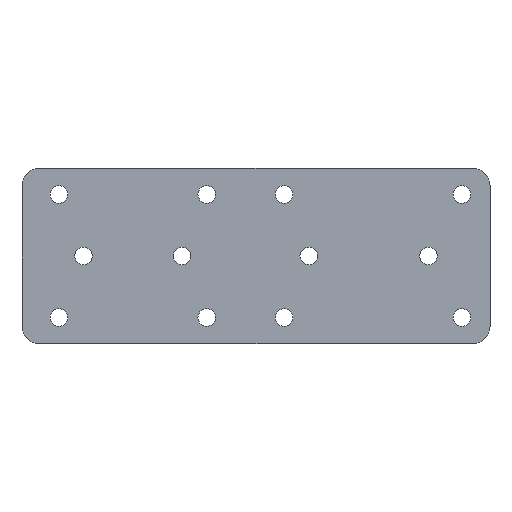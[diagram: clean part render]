
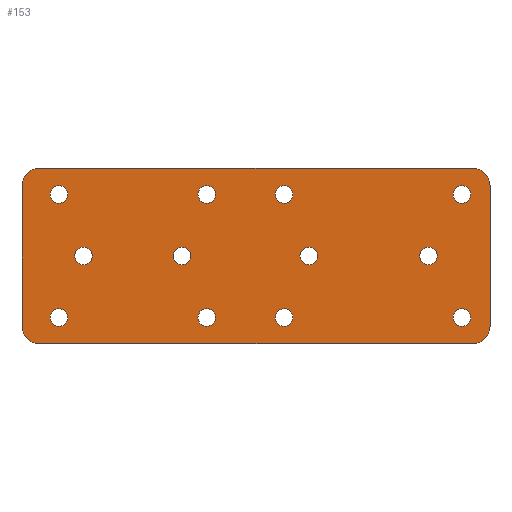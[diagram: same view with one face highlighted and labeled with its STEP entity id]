
A CAD part, top view. The second image highlights one B-rep face of the part: STEP entity #153.
In plain terms, the highlighted planar face has unit normal (0, 0, 1).
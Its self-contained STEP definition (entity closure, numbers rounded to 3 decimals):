
#59=FACE_BOUND('',#201,.T.);
#60=FACE_BOUND('',#202,.T.);
#61=FACE_BOUND('',#203,.T.);
#62=FACE_BOUND('',#204,.T.);
#63=FACE_BOUND('',#205,.T.);
#64=FACE_BOUND('',#206,.T.);
#65=FACE_BOUND('',#207,.T.);
#66=FACE_BOUND('',#208,.T.);
#67=FACE_BOUND('',#209,.T.);
#68=FACE_BOUND('',#210,.T.);
#69=FACE_BOUND('',#211,.T.);
#70=FACE_BOUND('',#212,.T.);
#71=FACE_BOUND('',#213,.T.);
#102=CIRCLE('',#462,5.);
#104=CIRCLE('',#466,5.);
#106=CIRCLE('',#470,5.);
#107=CIRCLE('',#473,2.5);
#109=CIRCLE('',#476,2.5);
#111=CIRCLE('',#479,2.5);
#113=CIRCLE('',#482,2.5);
#115=CIRCLE('',#485,2.5);
#117=CIRCLE('',#488,2.5);
#119=CIRCLE('',#491,2.5);
#121=CIRCLE('',#494,2.5);
#123=CIRCLE('',#497,2.5);
#125=CIRCLE('',#500,2.5);
#127=CIRCLE('',#503,2.5);
#130=CIRCLE('',#507,5.);
#131=CIRCLE('',#509,2.5);
#153=ADVANCED_FACE('',(#59,#60,#61,#62,#63,#64,#65,#66,#67,#68,#69,#70,
#71),#159,.T.);
#159=PLANE('',#512);
#201=EDGE_LOOP('',(#283,#284,#285,#286,#287,#288,#289,#290));
#202=EDGE_LOOP('',(#291));
#203=EDGE_LOOP('',(#292));
#204=EDGE_LOOP('',(#293));
#205=EDGE_LOOP('',(#294));
#206=EDGE_LOOP('',(#295));
#207=EDGE_LOOP('',(#296));
#208=EDGE_LOOP('',(#297));
#209=EDGE_LOOP('',(#298));
#210=EDGE_LOOP('',(#299));
#211=EDGE_LOOP('',(#300));
#212=EDGE_LOOP('',(#301));
#213=EDGE_LOOP('',(#302));
#283=ORIENTED_EDGE('',*,*,#365,.T.);
#284=ORIENTED_EDGE('',*,*,#369,.T.);
#285=ORIENTED_EDGE('',*,*,#372,.T.);
#286=ORIENTED_EDGE('',*,*,#375,.T.);
#287=ORIENTED_EDGE('',*,*,#378,.T.);
#288=ORIENTED_EDGE('',*,*,#381,.T.);
#289=ORIENTED_EDGE('',*,*,#384,.T.);
#290=ORIENTED_EDGE('',*,*,#408,.T.);
#291=ORIENTED_EDGE('',*,*,#405,.F.);
#292=ORIENTED_EDGE('',*,*,#403,.F.);
#293=ORIENTED_EDGE('',*,*,#401,.F.);
#294=ORIENTED_EDGE('',*,*,#399,.F.);
#295=ORIENTED_EDGE('',*,*,#397,.F.);
#296=ORIENTED_EDGE('',*,*,#395,.F.);
#297=ORIENTED_EDGE('',*,*,#393,.F.);
#298=ORIENTED_EDGE('',*,*,#391,.F.);
#299=ORIENTED_EDGE('',*,*,#389,.F.);
#300=ORIENTED_EDGE('',*,*,#387,.F.);
#301=ORIENTED_EDGE('',*,*,#385,.F.);
#302=ORIENTED_EDGE('',*,*,#409,.F.);
#325=VERTEX_POINT('',#649);
#326=VERTEX_POINT('',#651);
#328=VERTEX_POINT('',#657);
#330=VERTEX_POINT('',#663);
#332=VERTEX_POINT('',#669);
#334=VERTEX_POINT('',#675);
#336=VERTEX_POINT('',#681);
#338=VERTEX_POINT('',#687);
#339=VERTEX_POINT('',#691);
#341=VERTEX_POINT('',#696);
#343=VERTEX_POINT('',#701);
#345=VERTEX_POINT('',#706);
#347=VERTEX_POINT('',#711);
#349=VERTEX_POINT('',#716);
#351=VERTEX_POINT('',#721);
#353=VERTEX_POINT('',#726);
#355=VERTEX_POINT('',#731);
#357=VERTEX_POINT('',#736);
#359=VERTEX_POINT('',#741);
#361=VERTEX_POINT('',#749);
#365=EDGE_CURVE('',#326,#325,#413,.T.);
#369=EDGE_CURVE('',#325,#328,#102,.T.);
#372=EDGE_CURVE('',#328,#330,#418,.T.);
#375=EDGE_CURVE('',#330,#332,#104,.T.);
#378=EDGE_CURVE('',#332,#334,#422,.T.);
#381=EDGE_CURVE('',#334,#336,#106,.T.);
#384=EDGE_CURVE('',#336,#338,#426,.T.);
#385=EDGE_CURVE('',#339,#339,#107,.T.);
#387=EDGE_CURVE('',#341,#341,#109,.T.);
#389=EDGE_CURVE('',#343,#343,#111,.T.);
#391=EDGE_CURVE('',#345,#345,#113,.T.);
#393=EDGE_CURVE('',#347,#347,#115,.T.);
#395=EDGE_CURVE('',#349,#349,#117,.T.);
#397=EDGE_CURVE('',#351,#351,#119,.T.);
#399=EDGE_CURVE('',#353,#353,#121,.T.);
#401=EDGE_CURVE('',#355,#355,#123,.T.);
#403=EDGE_CURVE('',#357,#357,#125,.T.);
#405=EDGE_CURVE('',#359,#359,#127,.T.);
#408=EDGE_CURVE('',#338,#326,#130,.T.);
#409=EDGE_CURVE('',#361,#361,#131,.T.);
#413=LINE('',#650,#429);
#418=LINE('',#664,#434);
#422=LINE('',#676,#438);
#426=LINE('',#688,#442);
#429=VECTOR('',#520,1.);
#434=VECTOR('',#533,1.);
#438=VECTOR('',#545,1.);
#442=VECTOR('',#557,1.);
#462=AXIS2_PLACEMENT_3D('',#658,#527,#528);
#466=AXIS2_PLACEMENT_3D('',#670,#539,#540);
#470=AXIS2_PLACEMENT_3D('',#682,#551,#552);
#473=AXIS2_PLACEMENT_3D('',#690,#560,#561);
#476=AXIS2_PLACEMENT_3D('',#695,#566,#567);
#479=AXIS2_PLACEMENT_3D('',#700,#572,#573);
#482=AXIS2_PLACEMENT_3D('',#705,#578,#579);
#485=AXIS2_PLACEMENT_3D('',#710,#584,#585);
#488=AXIS2_PLACEMENT_3D('',#715,#590,#591);
#491=AXIS2_PLACEMENT_3D('',#720,#596,#597);
#494=AXIS2_PLACEMENT_3D('',#725,#602,#603);
#497=AXIS2_PLACEMENT_3D('',#730,#608,#609);
#500=AXIS2_PLACEMENT_3D('',#735,#614,#615);
#503=AXIS2_PLACEMENT_3D('',#740,#620,#621);
#507=AXIS2_PLACEMENT_3D('',#746,#628,#629);
#509=AXIS2_PLACEMENT_3D('',#748,#632,#633);
#512=AXIS2_PLACEMENT_3D('',#753,#638,#639);
#520=DIRECTION('',(0.,-1.,0.));
#527=DIRECTION('',(0.,0.,1.));
#528=DIRECTION('',(1.,0.,0.));
#533=DIRECTION('',(1.,0.,0.));
#539=DIRECTION('',(0.,0.,1.));
#540=DIRECTION('',(1.,0.,0.));
#545=DIRECTION('',(0.,1.,0.));
#551=DIRECTION('',(0.,0.,1.));
#552=DIRECTION('',(1.,0.,0.));
#557=DIRECTION('',(-1.,0.,0.));
#560=DIRECTION('',(0.,0.,1.));
#561=DIRECTION('',(1.,0.,0.));
#566=DIRECTION('',(0.,0.,1.));
#567=DIRECTION('',(1.,0.,0.));
#572=DIRECTION('',(0.,0.,1.));
#573=DIRECTION('',(1.,0.,0.));
#578=DIRECTION('',(0.,0.,1.));
#579=DIRECTION('',(1.,0.,0.));
#584=DIRECTION('',(0.,0.,1.));
#585=DIRECTION('',(1.,0.,0.));
#590=DIRECTION('',(0.,0.,1.));
#591=DIRECTION('',(1.,0.,0.));
#596=DIRECTION('',(0.,0.,1.));
#597=DIRECTION('',(1.,0.,0.));
#602=DIRECTION('',(0.,0.,1.));
#603=DIRECTION('',(1.,0.,0.));
#608=DIRECTION('',(0.,0.,1.));
#609=DIRECTION('',(1.,0.,0.));
#614=DIRECTION('',(0.,0.,1.));
#615=DIRECTION('',(1.,0.,0.));
#620=DIRECTION('',(0.,0.,1.));
#621=DIRECTION('',(1.,0.,0.));
#628=DIRECTION('',(0.,0.,1.));
#629=DIRECTION('',(1.,0.,0.));
#632=DIRECTION('',(0.,0.,1.));
#633=DIRECTION('',(1.,0.,0.));
#638=DIRECTION('',(0.,0.,1.));
#639=DIRECTION('',(1.,0.,0.));
#649=CARTESIAN_POINT('',(0.,5.,3.));
#650=CARTESIAN_POINT('',(0.,45.,3.));
#651=CARTESIAN_POINT('',(0.,45.,3.));
#657=CARTESIAN_POINT('',(5.,0.,3.));
#658=CARTESIAN_POINT('',(5.,5.,3.));
#663=CARTESIAN_POINT('',(128.,0.,3.));
#664=CARTESIAN_POINT('',(5.,0.,3.));
#669=CARTESIAN_POINT('',(133.,5.,3.));
#670=CARTESIAN_POINT('',(128.,5.,3.));
#675=CARTESIAN_POINT('',(133.,45.,3.));
#676=CARTESIAN_POINT('',(133.,5.,3.));
#681=CARTESIAN_POINT('',(128.,50.,3.));
#682=CARTESIAN_POINT('',(128.,45.,3.));
#687=CARTESIAN_POINT('',(5.,50.,3.));
#688=CARTESIAN_POINT('',(128.,50.,3.));
#690=CARTESIAN_POINT('',(125.,7.5,3.));
#691=CARTESIAN_POINT('',(127.5,7.5,3.));
#695=CARTESIAN_POINT('',(115.5,25.,3.));
#696=CARTESIAN_POINT('',(118.,25.,3.));
#700=CARTESIAN_POINT('',(81.5,25.,3.));
#701=CARTESIAN_POINT('',(84.,25.,3.));
#705=CARTESIAN_POINT('',(74.5,42.5,3.));
#706=CARTESIAN_POINT('',(77.,42.5,3.));
#710=CARTESIAN_POINT('',(74.5,7.5,3.));
#711=CARTESIAN_POINT('',(77.,7.5,3.));
#715=CARTESIAN_POINT('',(52.5,42.5,3.));
#716=CARTESIAN_POINT('',(55.,42.5,3.));
#720=CARTESIAN_POINT('',(52.5,7.5,3.));
#721=CARTESIAN_POINT('',(55.,7.5,3.));
#725=CARTESIAN_POINT('',(45.5,25.,3.));
#726=CARTESIAN_POINT('',(48.,25.,3.));
#730=CARTESIAN_POINT('',(17.5,25.,3.));
#731=CARTESIAN_POINT('',(20.,25.,3.));
#735=CARTESIAN_POINT('',(10.5,42.5,3.));
#736=CARTESIAN_POINT('',(13.,42.5,3.));
#740=CARTESIAN_POINT('',(10.5,7.5,3.));
#741=CARTESIAN_POINT('',(13.,7.5,3.));
#746=CARTESIAN_POINT('',(5.,45.,3.));
#748=CARTESIAN_POINT('',(125.,42.5,3.));
#749=CARTESIAN_POINT('',(127.5,42.5,3.));
#753=CARTESIAN_POINT('',(5.,5.,3.));
